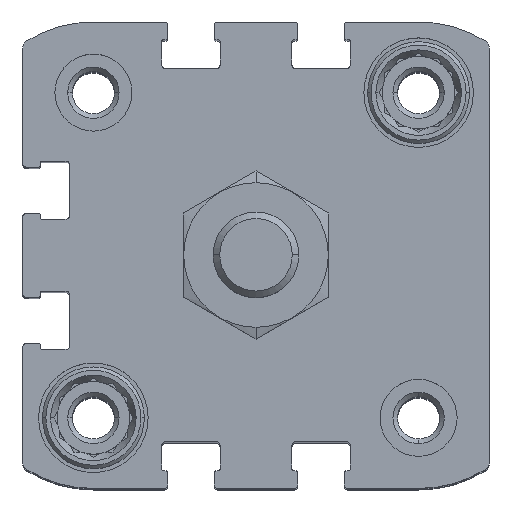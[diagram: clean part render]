
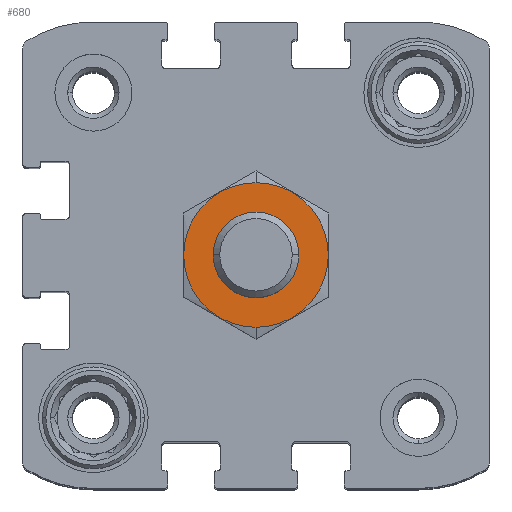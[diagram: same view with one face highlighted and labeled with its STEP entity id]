
A CAD part, top view. The second image highlights one B-rep face of the part: STEP entity #680.
In plain terms, the highlighted planar face has unit normal (0, 0, 1).
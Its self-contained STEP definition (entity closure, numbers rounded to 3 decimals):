
#680 = ADVANCED_FACE ( 'NONE', ( #13320, #16372 ), #16471, .F. ) ;
#1243 = DIRECTION ( 'NONE',  ( 0., 1., 0. ) ) ;
#1355 = VERTEX_POINT ( 'NONE', #3784 ) ;
#2352 = ORIENTED_EDGE ( 'NONE', *, *, #9172, .T. ) ;
#2809 = VERTEX_POINT ( 'NONE', #5975 ) ;
#3682 = EDGE_CURVE ( 'NONE', #2809, #1355, #12714, .T. ) ;
#3784 = CARTESIAN_POINT ( 'NONE',  ( 0., -8.45, 15.8 ) ) ;
#3796 = DIRECTION ( 'NONE',  ( 0., 0., -1. ) ) ;
#4029 = CARTESIAN_POINT ( 'NONE',  ( 0., 0., 15.8 ) ) ;
#4085 = CIRCLE ( 'NONE', #17269, 5. ) ;
#4226 = CARTESIAN_POINT ( 'NONE',  ( 0., 5., 15.8 ) ) ;
#4532 = EDGE_CURVE ( 'NONE', #1355, #2809, #14528, .T. ) ;
#4947 = CARTESIAN_POINT ( 'NONE',  ( 0., 0., 15.8 ) ) ;
#5033 = DIRECTION ( 'NONE',  ( 0., 1., 0. ) ) ;
#5711 = DIRECTION ( 'NONE',  ( 0., 0., -1. ) ) ;
#5761 = DIRECTION ( 'NONE',  ( 0., 0., -1. ) ) ;
#5975 = CARTESIAN_POINT ( 'NONE',  ( 0., 8.45, 15.8 ) ) ;
#6287 = VERTEX_POINT ( 'NONE', #4226 ) ;
#6766 = DIRECTION ( 'NONE',  ( 0., 0., -1. ) ) ;
#6960 = AXIS2_PLACEMENT_3D ( 'NONE', #4947, #3796, #1243 ) ;
#8024 = CARTESIAN_POINT ( 'NONE',  ( 0., -5., 15.8 ) ) ;
#8259 = CARTESIAN_POINT ( 'NONE',  ( 0., 0., 15.8 ) ) ;
#8495 = ORIENTED_EDGE ( 'NONE', *, *, #4532, .F. ) ;
#9172 = EDGE_CURVE ( 'NONE', #6287, #12814, #16755, .T. ) ;
#9190 = ORIENTED_EDGE ( 'NONE', *, *, #3682, .F. ) ;
#10162 = ORIENTED_EDGE ( 'NONE', *, *, #10706, .T. ) ;
#10460 = DIRECTION ( 'NONE',  ( 0., 0., -1. ) ) ;
#10706 = EDGE_CURVE ( 'NONE', #12814, #6287, #4085, .T. ) ;
#10900 = EDGE_LOOP ( 'NONE', ( #9190, #8495 ) ) ;
#11270 = EDGE_LOOP ( 'NONE', ( #10162, #2352 ) ) ;
#12462 = AXIS2_PLACEMENT_3D ( 'NONE', #14906, #5761, #13667 ) ;
#12714 = CIRCLE ( 'NONE', #16079, 8.45 ) ;
#12814 = VERTEX_POINT ( 'NONE', #8024 ) ;
#13320 = FACE_OUTER_BOUND ( 'NONE', #10900, .T. ) ;
#13667 = DIRECTION ( 'NONE',  ( 0., 1., 0. ) ) ;
#14424 = CARTESIAN_POINT ( 'NONE',  ( 0., 0., 15.8 ) ) ;
#14528 = CIRCLE ( 'NONE', #6960, 8.45 ) ;
#14906 = CARTESIAN_POINT ( 'NONE',  ( 0., 0., 15.8 ) ) ;
#15203 = DIRECTION ( 'NONE',  ( 0., 1., 0. ) ) ;
#16079 = AXIS2_PLACEMENT_3D ( 'NONE', #14424, #10460, #5033 ) ;
#16372 = FACE_BOUND ( 'NONE', #11270, .T. ) ;
#16471 = PLANE ( 'NONE',  #12462 ) ;
#16755 = CIRCLE ( 'NONE', #17317, 5. ) ;
#17269 = AXIS2_PLACEMENT_3D ( 'NONE', #4029, #6766, #17298 ) ;
#17298 = DIRECTION ( 'NONE',  ( 0., 1., 0. ) ) ;
#17317 = AXIS2_PLACEMENT_3D ( 'NONE', #8259, #5711, #15203 ) ;
